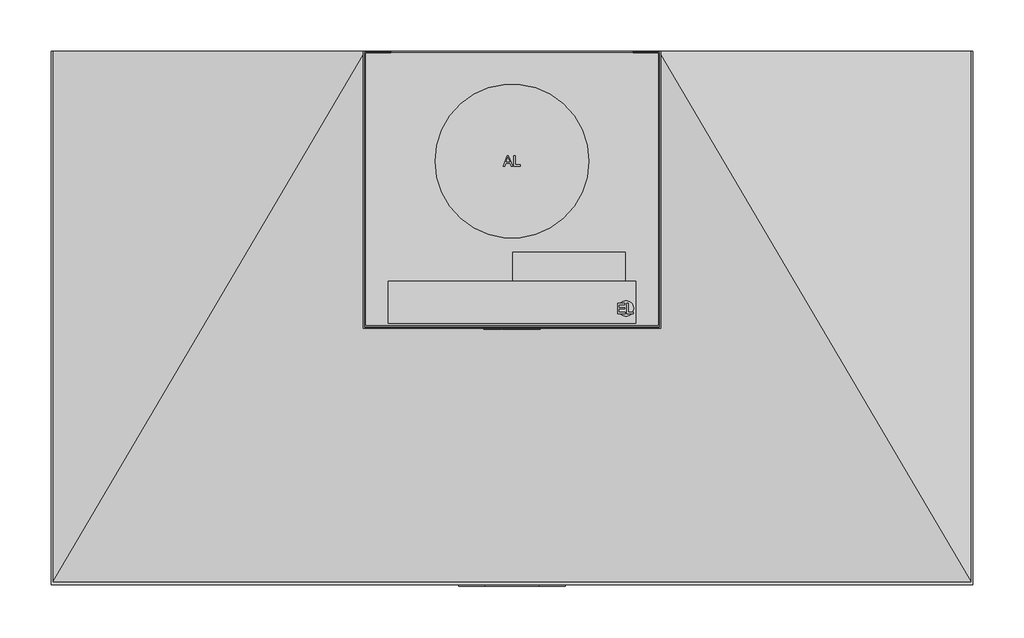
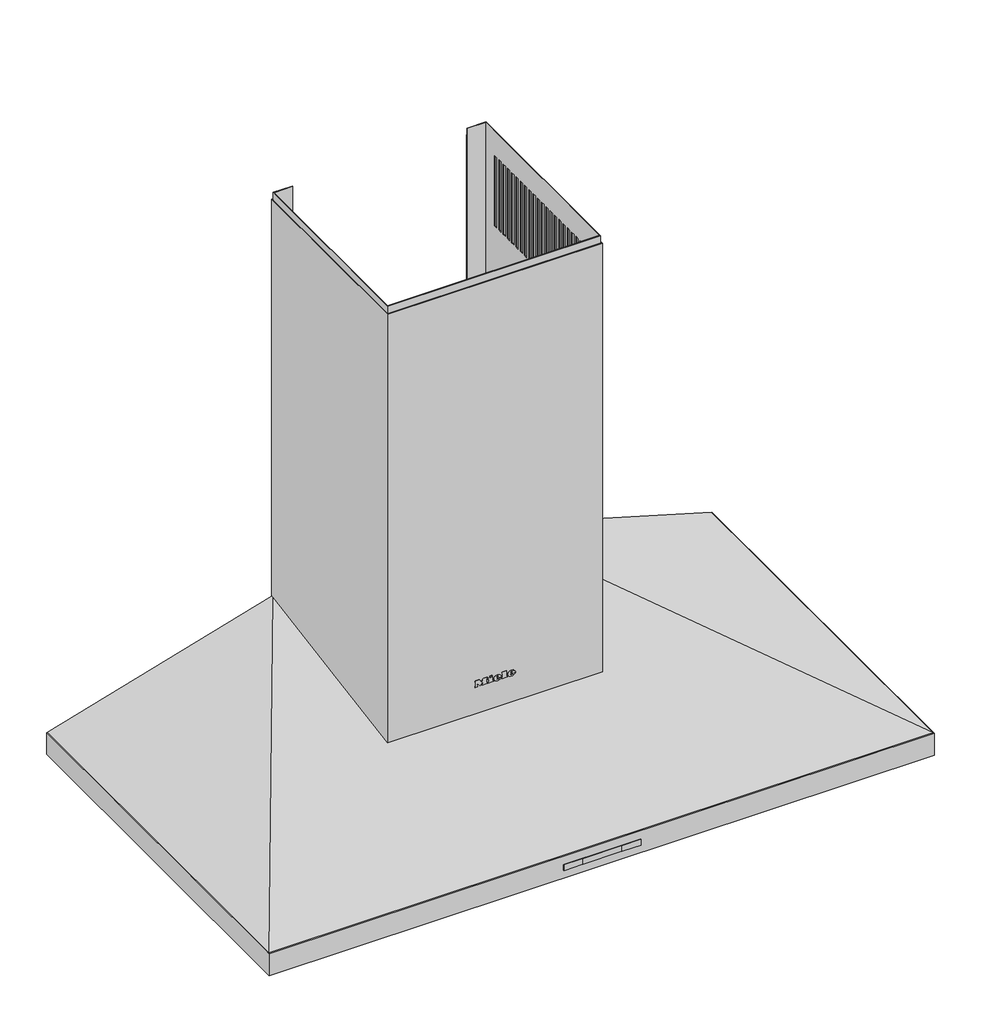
# Not in any storey: 1 proxy.
"""IFC4 building model written with IfcOpenShell, lengths in millimetres."""

from ifc_helpers import new_model, si_unit, origin, place, context, project, spatial, transform, mapped, element, save
from components import specialty_equipment_13ad61e1

model = new_model("IFC4")

# Units and contexts
model_context = context("Model", 3, world=origin())
ifc_project = project(units=[si_unit("LENGTHUNIT", "METRE", prefix="MILLI")], contexts=[model_context])

# Site, building
site = spatial("IfcSite", under=ifc_project)
building = spatial("IfcBuilding", under=site)

# Proxy
placement = place(None, origin())
specialty_equipment_shape = specialty_equipment_13ad61e1(model_context)
element("IfcBuildingElementProxy", 1, Name="10558800_USA_DA399-7_EDST : 28399750_USA_10558800_DA399-7_EDST", ObjectType="10558800_USA_DA399-7_EDST : 28399750_USA_10558800_DA399-7_EDST", at=placement, inside=building, context=model_context, shape_type="MappedRepresentation", body=[
    mapped(specialty_equipment_shape, transform((0.0, 0.0, 0.0), x_axis=(1.0, 0.0, 0.0), y_axis=(0.0, 1.0, 0.0), z_axis=(0.0, 0.0, 1.0))),
])

save(model, "model.ifc")
